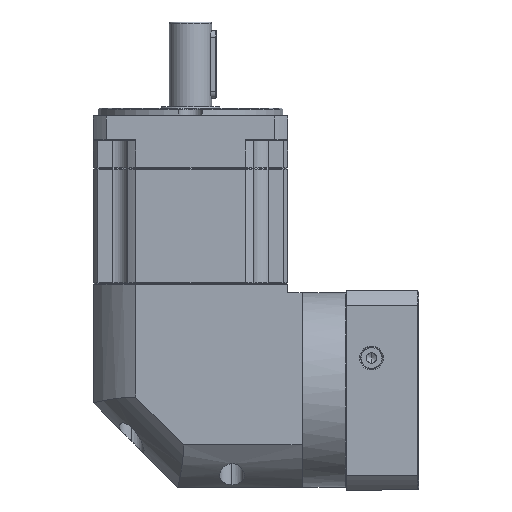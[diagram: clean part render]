
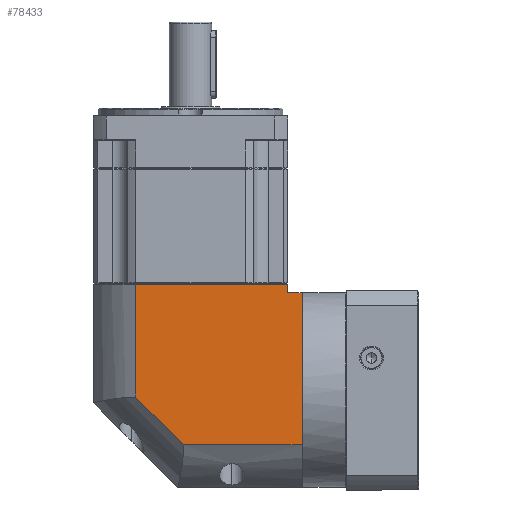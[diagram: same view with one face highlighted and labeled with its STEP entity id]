
A CAD part, left-side view. The second image highlights one B-rep face of the part: STEP entity #78433.
In plain terms, the highlighted planar face has unit normal (-1, 0, 0).
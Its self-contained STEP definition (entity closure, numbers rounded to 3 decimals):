
#9847 = VECTOR ( 'NONE', #136904, 1000. ) ;
#11079 = VERTEX_POINT ( 'NONE', #163552 ) ;
#12082 = CARTESIAN_POINT ( 'NONE',  ( -284.014, -37.27, -67.518 ) ) ;
#14984 = PLANE ( 'NONE',  #149144 ) ;
#17374 = CARTESIAN_POINT ( 'NONE',  ( -284.014, -107.232, 22.382 ) ) ;
#19398 = EDGE_CURVE ( 'NONE', #77259, #154042, #152510, .T. ) ;
#27297 = CARTESIAN_POINT ( 'NONE',  ( -284.014, -107.232, 33.882 ) ) ;
#29036 = ORIENTED_EDGE ( 'NONE', *, *, #43475, .F. ) ;
#29668 = CARTESIAN_POINT ( 'NONE',  ( -284.014, -98.832, 22.382 ) ) ;
#30220 = LINE ( 'NONE', #43816, #97340 ) ;
#30241 = CARTESIAN_POINT ( 'NONE',  ( -284.014, -8.932, 33.882 ) ) ;
#30942 = LINE ( 'NONE', #27297, #62397 ) ;
#32248 = ORIENTED_EDGE ( 'NONE', *, *, #42817, .F. ) ;
#39163 = ORIENTED_EDGE ( 'NONE', *, *, #60380, .F. ) ;
#42673 = ORIENTED_EDGE ( 'NONE', *, *, #46168, .F. ) ;
#42817 = EDGE_CURVE ( 'NONE', #100641, #96013, #113161, .T. ) ;
#43475 = EDGE_CURVE ( 'NONE', #96013, #11079, #142076, .T. ) ;
#43816 = CARTESIAN_POINT ( 'NONE',  ( -284.014, 16.168, 27.382 ) ) ;
#46168 = EDGE_CURVE ( 'NONE', #11079, #70094, #169191, .T. ) ;
#53106 = CARTESIAN_POINT ( 'NONE',  ( -284.014, -107.232, -67.518 ) ) ;
#54976 = ORIENTED_EDGE ( 'NONE', *, *, #64362, .T. ) ;
#57458 = ORIENTED_EDGE ( 'NONE', *, *, #168355, .F. ) ;
#60380 = EDGE_CURVE ( 'NONE', #70094, #113907, #30220, .T. ) ;
#62397 = VECTOR ( 'NONE', #80619, 1000. ) ;
#64362 = EDGE_CURVE ( 'NONE', #154042, #113907, #173858, .T. ) ;
#65006 = CARTESIAN_POINT ( 'NONE',  ( -284.014, 16.168, -67.518 ) ) ;
#68988 = DIRECTION ( 'NONE',  ( 1., 0., 0. ) ) ;
#70094 = VERTEX_POINT ( 'NONE', #114617 ) ;
#70692 = DIRECTION ( 'NONE',  ( 0., 0., 1. ) ) ;
#71171 = VECTOR ( 'NONE', #74125, 1000. ) ;
#74125 = DIRECTION ( 'NONE',  ( 0., 0., 1. ) ) ;
#77259 = VERTEX_POINT ( 'NONE', #17374 ) ;
#77484 = VECTOR ( 'NONE', #91970, 1000. ) ;
#78433 = ADVANCED_FACE ( 'NONE', ( #105746 ), #14984, .F. ) ;
#80619 = DIRECTION ( 'NONE',  ( 0., 0., -1. ) ) ;
#81182 = CARTESIAN_POINT ( 'NONE',  ( -284.014, -37.27, -67.518 ) ) ;
#91970 = DIRECTION ( 'NONE',  ( 0., 1., 0. ) ) ;
#96013 = VERTEX_POINT ( 'NONE', #12082 ) ;
#97340 = VECTOR ( 'NONE', #151617, 1000. ) ;
#97962 = VECTOR ( 'NONE', #70692, 1000. ) ;
#100641 = VERTEX_POINT ( 'NONE', #53106 ) ;
#105746 = FACE_OUTER_BOUND ( 'NONE', #147754, .T. ) ;
#106426 = VECTOR ( 'NONE', #121647, 1000. ) ;
#107913 = CARTESIAN_POINT ( 'NONE',  ( -284.014, -98.832, 22.382 ) ) ;
#113161 = LINE ( 'NONE', #65006, #77484 ) ;
#113907 = VERTEX_POINT ( 'NONE', #139941 ) ;
#114617 = CARTESIAN_POINT ( 'NONE',  ( -284.014, -8.932, 27.382 ) ) ;
#121647 = DIRECTION ( 'NONE',  ( 0., 0.707, 0.707 ) ) ;
#129182 = CARTESIAN_POINT ( 'NONE',  ( -284.014, -98.832, -92.618 ) ) ;
#136904 = DIRECTION ( 'NONE',  ( 0., 1., 0. ) ) ;
#139941 = CARTESIAN_POINT ( 'NONE',  ( -284.014, -98.832, 27.382 ) ) ;
#142076 = LINE ( 'NONE', #81182, #106426 ) ;
#147754 = EDGE_LOOP ( 'NONE', ( #42673, #29036, #32248, #57458, #169214, #54976, #39163 ) ) ;
#149144 = AXIS2_PLACEMENT_3D ( 'NONE', #149202, #68988, #162704 ) ;
#149202 = CARTESIAN_POINT ( 'NONE',  ( -284.014, 16.168, 33.882 ) ) ;
#151617 = DIRECTION ( 'NONE',  ( 0., -1., 0. ) ) ;
#152510 = LINE ( 'NONE', #29668, #9847 ) ;
#154042 = VERTEX_POINT ( 'NONE', #107913 ) ;
#162704 = DIRECTION ( 'NONE',  ( 0., 1., 0. ) ) ;
#163552 = CARTESIAN_POINT ( 'NONE',  ( -284.014, -8.932, -39.18 ) ) ;
#168355 = EDGE_CURVE ( 'NONE', #77259, #100641, #30942, .T. ) ;
#169191 = LINE ( 'NONE', #30241, #97962 ) ;
#169214 = ORIENTED_EDGE ( 'NONE', *, *, #19398, .T. ) ;
#173858 = LINE ( 'NONE', #129182, #71171 ) ;
